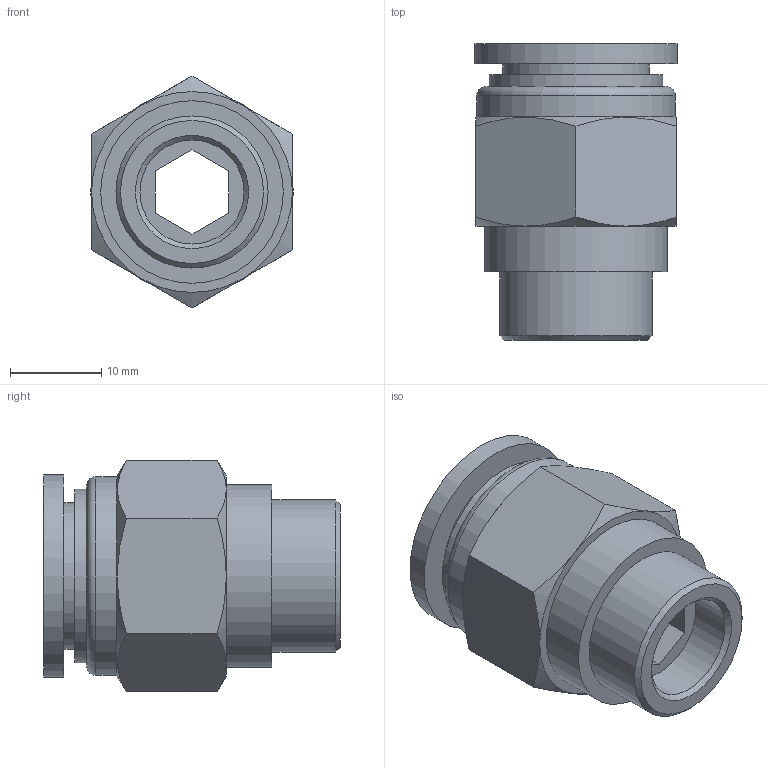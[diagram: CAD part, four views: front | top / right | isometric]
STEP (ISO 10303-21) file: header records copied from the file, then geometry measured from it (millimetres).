
FILE_DESCRIPTION((''),'2;1');
FILE_NAME('S:\UTecnico\ArchivioUT\Speciali Clienti\Speciali KONFIT\Plastica\RP\RP 51\RP513814.stp','2012-05-21T15:24:05',('UT5'),(''),'Autodesk Inventor 2012','Autodesk Inventor 2012','');
FILE_SCHEMA(('AUTOMOTIVE_DESIGN { 1 0 10303 214 1 1 1 1 }'));
Length unit declared in the file: millimetre
Products named in the file (1): RP513814
Bounding box: 22.2 x 32.5 x 25.4 mm (x, y, z)
Volume: 6719.3 mm3; surface area: 4429.5 mm2
Topology: 1 solids, 1 shells, 39 faces, 81 edges, 51 vertices
Faces by surface type: plane 21, cone 9, cylinder 8, torus 1
Full cylindrical faces by diameter (mm): 11.4 x1, 14 x1, 16 x1, 16.662 x1, 19 x1, 20 x1, 21.75 x1, 22.2 x1
Entity records: 982 total; most frequent: CARTESIAN_POINT 192, DIRECTION 154, ORIENTED_EDGE 134, EDGE_CURVE 67, AXIS2_PLACEMENT_3D 65, EDGE_LOOP 60, VERTEX_POINT 49, FACE_OUTER_BOUND 39
